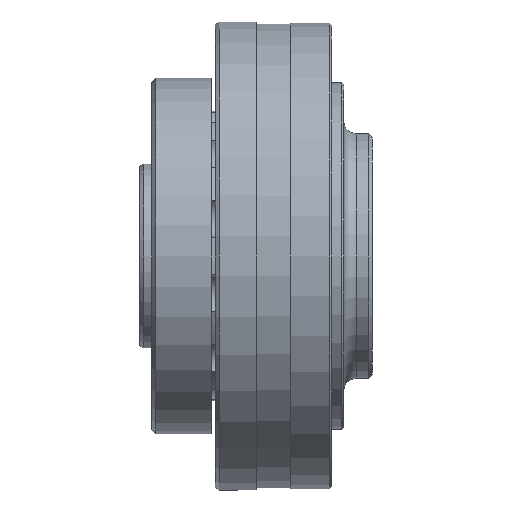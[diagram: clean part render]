
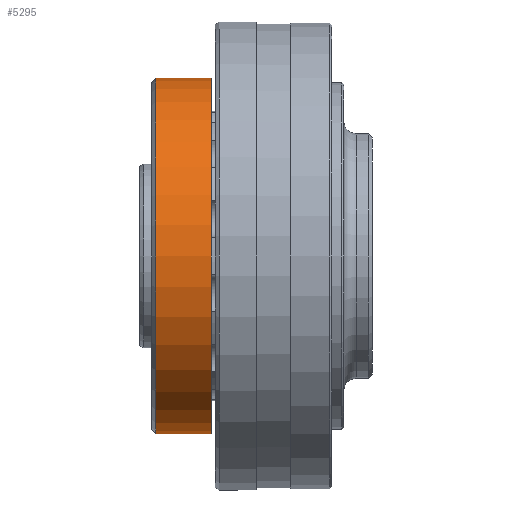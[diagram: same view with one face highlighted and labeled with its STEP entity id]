
A CAD part, front view. The second image highlights one B-rep face of the part: STEP entity #5295.
In plain terms, the highlighted cylindrical face has radius 43.5 mm (diameter 87 mm), a full revolution.
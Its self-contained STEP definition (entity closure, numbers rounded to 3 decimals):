
#674=FACE_OUTER_BOUND('',#1095,.T.);
#1095=EDGE_LOOP('',(#4460,#4461,#4462,#4463,#4464,#4465));
#1364=LINE('',#9643,#1581);
#1581=VECTOR('',#7888,43.5);
#1982=CIRCLE('',#6255,43.5);
#1983=CIRCLE('',#6256,43.5);
#2023=CIRCLE('',#6298,43.5);
#2024=CIRCLE('',#6299,43.5);
#2519=VERTEX_POINT('',#9554);
#2520=VERTEX_POINT('',#9555);
#2560=VERTEX_POINT('',#9639);
#2561=VERTEX_POINT('',#9640);
#3190=EDGE_CURVE('',#2519,#2520,#1982,.T.);
#3191=EDGE_CURVE('',#2520,#2519,#1983,.T.);
#3232=EDGE_CURVE('',#2560,#2561,#2023,.T.);
#3233=EDGE_CURVE('',#2561,#2560,#2024,.T.);
#3234=EDGE_CURVE('',#2561,#2520,#1364,.T.);
#4460=ORIENTED_EDGE('',*,*,#3232,.F.);
#4461=ORIENTED_EDGE('',*,*,#3233,.F.);
#4462=ORIENTED_EDGE('',*,*,#3234,.T.);
#4463=ORIENTED_EDGE('',*,*,#3190,.F.);
#4464=ORIENTED_EDGE('',*,*,#3191,.F.);
#4465=ORIENTED_EDGE('',*,*,#3234,.F.);
#5046=CYLINDRICAL_SURFACE('',#6297,43.5);
#5295=ADVANCED_FACE('',(#674),#5046,.T.);
#6255=AXIS2_PLACEMENT_3D('',#9556,#7797,#7798);
#6256=AXIS2_PLACEMENT_3D('',#9557,#7799,#7800);
#6297=AXIS2_PLACEMENT_3D('',#9638,#7882,#7883);
#6298=AXIS2_PLACEMENT_3D('',#9641,#7884,#7885);
#6299=AXIS2_PLACEMENT_3D('',#9642,#7886,#7887);
#7797=DIRECTION('center_axis',(-1.,0.,0.));
#7798=DIRECTION('ref_axis',(0.,-1.,0.));
#7799=DIRECTION('center_axis',(-1.,0.,0.));
#7800=DIRECTION('ref_axis',(0.,-1.,0.));
#7882=DIRECTION('center_axis',(1.,0.,0.));
#7883=DIRECTION('ref_axis',(0.,1.,0.));
#7884=DIRECTION('center_axis',(1.,0.,0.));
#7885=DIRECTION('ref_axis',(0.,1.,0.));
#7886=DIRECTION('center_axis',(1.,0.,0.));
#7887=DIRECTION('ref_axis',(0.,1.,0.));
#7888=DIRECTION('',(-1.,0.,0.));
#9554=CARTESIAN_POINT('',(4.,43.5,0.));
#9555=CARTESIAN_POINT('',(4.,-43.5,0.));
#9556=CARTESIAN_POINT('Origin',(4.,0.,0.));
#9557=CARTESIAN_POINT('Origin',(4.,0.,0.));
#9638=CARTESIAN_POINT('Origin',(10.25,0.,0.));
#9639=CARTESIAN_POINT('',(17.5,43.5,0.));
#9640=CARTESIAN_POINT('',(17.5,-43.5,0.));
#9641=CARTESIAN_POINT('Origin',(17.5,0.,0.));
#9642=CARTESIAN_POINT('Origin',(17.5,0.,0.));
#9643=CARTESIAN_POINT('',(10.25,-43.5,0.));
